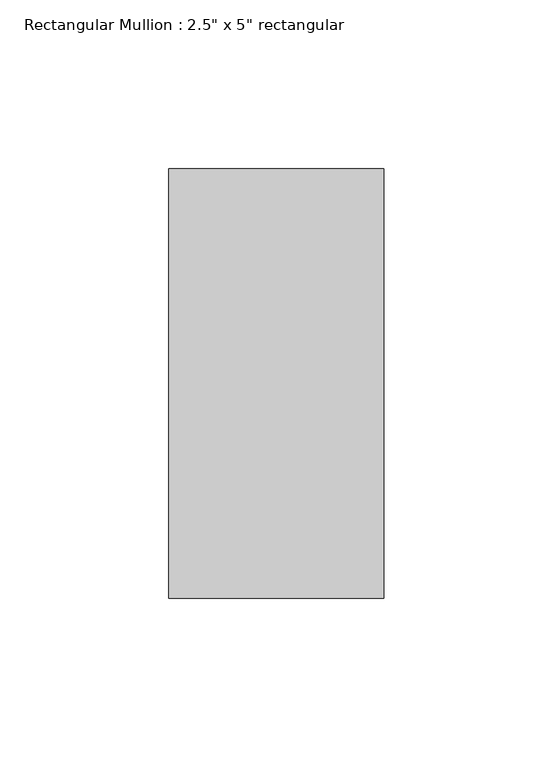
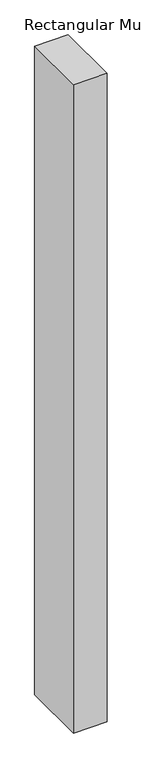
"""IFC4 building model written with IfcOpenShell, lengths in millimetres: member geometry."""

from ifc_helpers import new_model, si_unit, frame, origin, place, context, project, spatial, polyline, outline, extrude, source, transform, mapped, element, save


def member_2fd083e0(model_context):
    return source(origin(), model_context, "Body", "SweptSolid", [
        extrude(outline(polyline([(31.75, 63.5), (31.75, -63.5), (-31.75, -63.5), (-31.75, 63.5), (31.75, 63.5)])), frame((0.0, 0.0, -1296.3071429), z_axis=(0.0, 0.0, 1.0), x_axis=(1.0, 0.0, 0.0)), (0.0, 0.0, 1.0), 1296.3071429),
    ])


if __name__ == "__main__":
    model = new_model("IFC4")
    model_context = context("Model", 3, world=origin())
    ifc_project = project(units=[si_unit("LENGTHUNIT", "METRE", prefix="MILLI")], contexts=[model_context])
    site = spatial("IfcSite", under=ifc_project)
    building = spatial("IfcBuilding", under=site)
    placement = place(None, origin())
    member_shape = member_2fd083e0(model_context)
    element("IfcMember", 1, ObjectType="Rectangular Mullion : 2.5\" x 5\" rectangular", at=placement, inside=building, context=model_context, shape_type="MappedRepresentation", body=[
        mapped(member_shape, transform((0.0, 0.0, 0.0), x_axis=(1.0, 0.0, 0.0), y_axis=(0.0, 1.0, 0.0), z_axis=(0.0, 0.0, 1.0))),
    ])
    save(model, "model.ifc")
